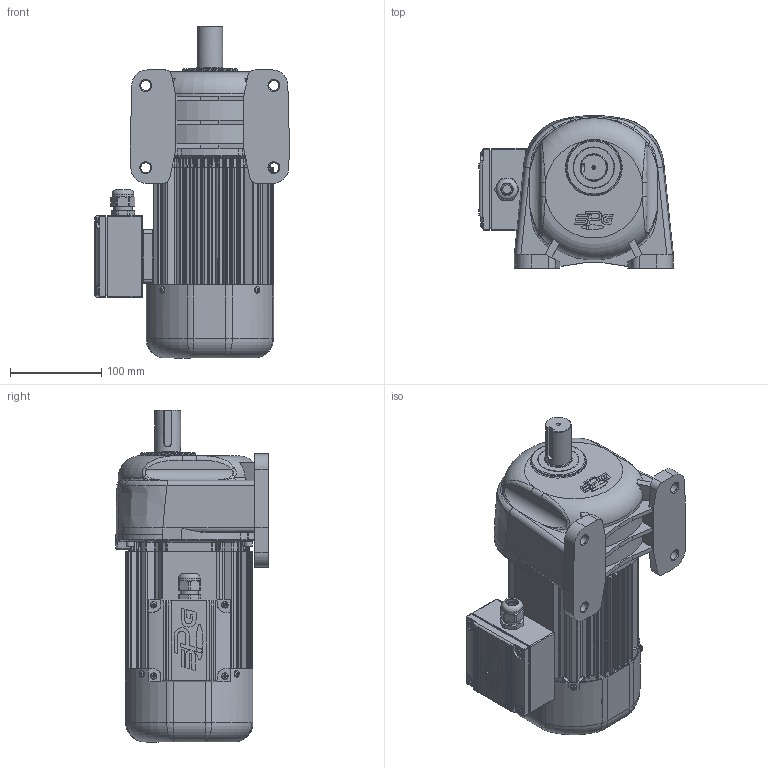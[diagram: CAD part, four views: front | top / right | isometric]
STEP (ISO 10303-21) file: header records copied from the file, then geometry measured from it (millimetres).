
FILE_DESCRIPTION(/* description */ (''),/* implementation_level */ '2;1');
FILE_NAME(/* name */ 'Z:\동력 3D 파일\PAL28-(30~100)-MC(D)040[ ]L_(3D).stp',/* time_stamp */ '2021-07-19T10:42:09+09:00',/* author */ ('jaebok'),/* organization */ (''),/* preprocessor_version */ 'ST-DEVELOPER v18.1',/* originating_system */ 'Autodesk Inventor 2022',/* authorisation */ '');
FILE_SCHEMA (('AUTOMOTIVE_DESIGN { 1 0 10303 214 3 1 1 }'));
Length unit declared in the file: millimetre
Products named in the file (1): 부품1
Bounding box: 213 x 166.97 x 363 mm (x, y, z)
Volume: 2073038.2 mm3; surface area: 637525.1 mm2
Topology: 3 solids, 26 shells, 3193 faces, 8023 edges, 4738 vertices
Faces by surface type: plane 1043, cylinder 934, bspline 686, torus 269, cone 163, sphere 98
Full cylindrical faces by diameter (mm): 1.5 x2, 2 x5, 3 x8, 3.242 x5, 3.25 x1, 3.3 x4, 3.6 x4, 3.8 x3, 4 x25, 4.2 x12, 4.917 x4, 5 x25, 5.5 x4, 5.8 x2, 5.9 x3, 6 x14, 6.4 x1, 6.5 x6, 7 x12, 7.9 x6, 8 x7, 8.5 x5, 8.7 x1, 10 x1, 11 x4, 12.5 x1, 15 x1, 18 x1, 19 x2, 20 x2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
Entity records: 127641 total; most frequent: CARTESIAN_POINT 52827, ORIENTED_EDGE 15532, DIRECTION 14310, EDGE_CURVE 7766, AXIS2_PLACEMENT_3D 5758, VERTEX_POINT 4734, EDGE_LOOP 3459, FACE_OUTER_BOUND 3193
